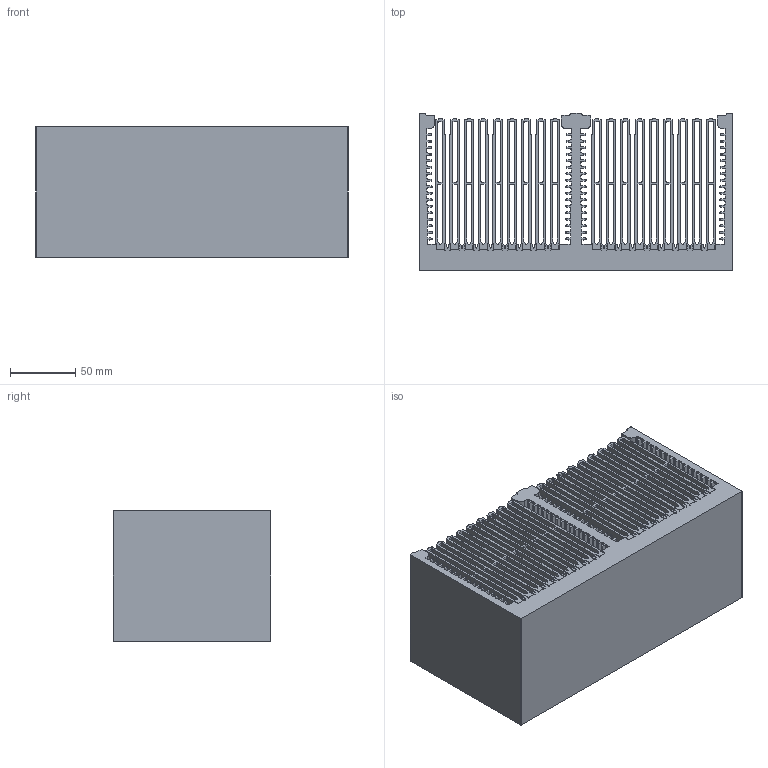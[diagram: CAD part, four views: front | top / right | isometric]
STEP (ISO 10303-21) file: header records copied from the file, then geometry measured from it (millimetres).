
FILE_DESCRIPTION (( 'STEP AP214' ), '1' );
FILE_NAME ('PR720_Komplett.STEP', '2008-02-26T08:54:12', ( 'Alutronic' ), ( 'Alutronic' ), 'SwSTEP 2.0', 'SolidWorks 2007', '' );
FILE_SCHEMA (( 'AUTOMOTIVE_DESIGN' ));
Length unit declared in the file: millimetre
Products named in the file (3): PR720_Rippe_Standard; PR720_Grundkörper_Standard; PR720_Komplett
Assembly tree (19 placements, depth 2):
  PR720_Komplett
    PR720_Rippe_Standard  x18
    PR720_Grundkörper_Standard
Bounding box: 240 x 121 x 100 mm (x, y, z)
Volume: 1367735.2 mm3; surface area: 960429 mm2
Topology: 19 solids, 19 shells, 1832 faces, 5382 edges, 3588 vertices
Faces by surface type: plane 1035, cylinder 797
Entity records: 42780 total; most frequent: DIRECTION 7556, CARTESIAN_POINT 7526, ORIENTED_EDGE 7500, EDGE_CURVE 3750, AXIS2_PLACEMENT_3D 2530, VERTEX_POINT 2500, VECTOR 2496, LINE 2496
